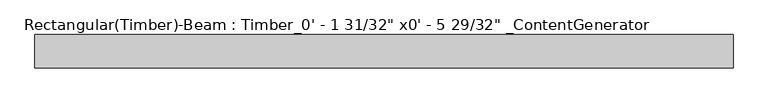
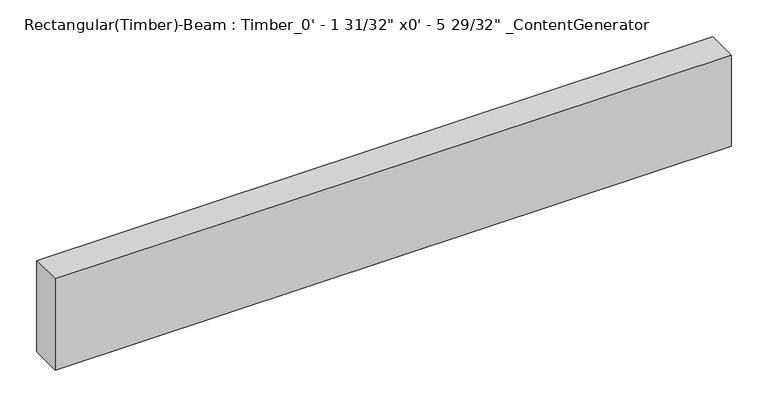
"""IFC4 building model written with IfcOpenShell, lengths in millimetres: beam geometry."""

from ifc_helpers import new_model, si_unit, frame, origin, place, context, project, spatial, polyline, outline, extrude, source, transform, mapped, element, save


def beam_733ad47f(model_context):
    return source(origin(), model_context, "Body", "SweptSolid", [
        extrude(outline(polyline([(533.41, 25.4), (533.41, -25.4), (-533.41, -25.4), (-533.41, 25.4), (533.41, 25.4)])), frame((0.0, 0.0, -76.2), z_axis=(0.0, 0.0, 1.0), x_axis=(1.0, 0.0, 0.0)), (0.0, 0.0, 1.0), 152.4),
    ])


if __name__ == "__main__":
    model = new_model("IFC4")
    model_context = context("Model", 3, world=origin())
    ifc_project = project(units=[si_unit("LENGTHUNIT", "METRE", prefix="MILLI")], contexts=[model_context])
    site = spatial("IfcSite", under=ifc_project)
    building = spatial("IfcBuilding", under=site)
    placement = place(None, origin())
    beam_shape = beam_733ad47f(model_context)
    element("IfcBeam", 1, ObjectType="Rectangular(Timber)-Beam : Timber_0' - 1 31/32\" x0' - 5 29/32\" _ContentGenerator", at=placement, inside=building, context=model_context, shape_type="MappedRepresentation", body=[
        mapped(beam_shape, transform((0.0, 0.0, 0.0), x_axis=(1.0, 0.0, 0.0), y_axis=(0.0, 1.0, 0.0), z_axis=(0.0, 0.0, 1.0))),
    ])
    save(model, "model.ifc")
